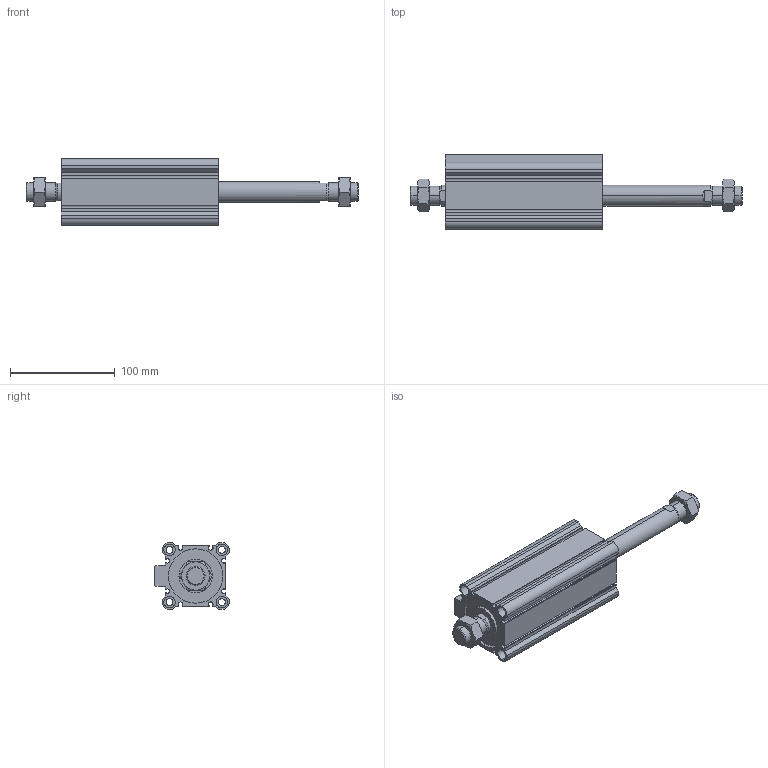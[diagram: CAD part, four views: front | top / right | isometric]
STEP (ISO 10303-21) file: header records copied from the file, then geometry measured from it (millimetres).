
FILE_DESCRIPTION (( 'STEP AP203' ), '1' );
FILE_NAME ('CCMB50-100M-P.STEP', '2020-08-10T11:48:07', ( '' ), ( '' ), 'SwSTEP 2.0', 'SolidWorks 2019', '' );
FILE_SCHEMA (( 'CONFIG_CONTROL_DESIGN' ));
Length unit declared in the file: millimetre
Products named in the file (1): CCMB50-100M-P
Bounding box: 317.5 x 71 x 64 mm (x, y, z)
Volume: 406206 mm3; surface area: 128820.4 mm2
Topology: 4 solids, 4 shells, 220 faces, 534 edges, 340 vertices
Faces by surface type: plane 98, cylinder 78, cone 44
Entity records: 7173 total; most frequent: CARTESIAN_POINT 1867, DIRECTION 1116, ORIENTED_EDGE 1068, EDGE_CURVE 534, AXIS2_PLACEMENT_3D 425, VERTEX_POINT 340, VECTOR 266, LINE 266
